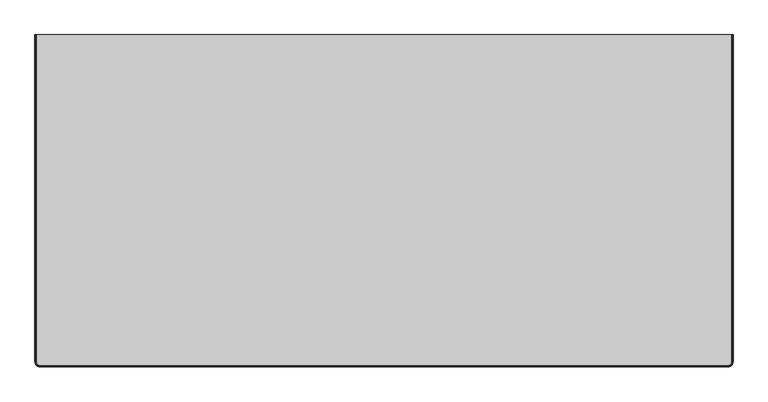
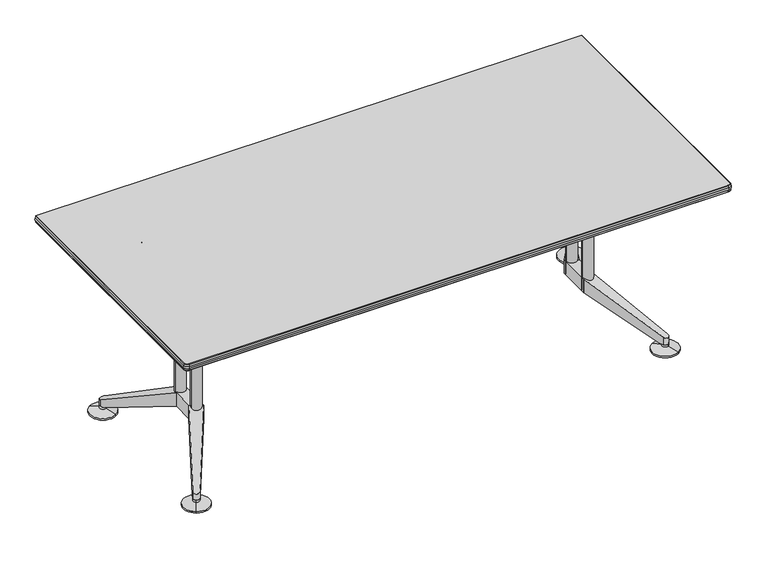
"""IFC4 building model written with IfcOpenShell, lengths in millimetres: furniture geometry, Furniture_Wilkhahn_620-24_Logon Table-Rectangle : Logon 620/23_2100L x 2000W x 730H."""

from ifc_helpers import new_model, si_unit, point, frame, frame_2d, origin, place, context, project, spatial, polyline, circle_curve, ellipse_curve, trimmed, segment, composite_curve, outline, extrude, source, transform, mapped, element, save
from ifc_brep_helpers import plane_surface, cylinder_surface, revolved_surface, advanced_brep


def furniture_8e140310(model_context):
    return source(origin(), model_context, "Body", "SolidModel", [
        advanced_brep(
        [(1048.5013551, -1184.0488456, 720.5693751), (1035.0, -1197.5502006, 720.5693751), (1035.0, -1197.5502006, 713.4306041), (1048.5013551, -1184.0488456, 713.4306041), (1048.5013551, -199.0488456, 713.4306041), (1048.5013551, -199.0488456, 720.5693751), (-1048.5013551, -199.0488456, 720.5693751), (-1048.5013551, -199.0488456, 713.4306041), (-1048.5013551, -1184.0488456, 713.4306041), (-1048.5013551, -1184.0488456, 720.5693751), (-1035.0, -1197.5502006, 713.4306041), (-1035.0, -1197.5502006, 720.5693751), (1035.0, -1195.2688717, 703.9999792), (1046.2200262, -1184.0488456, 703.9999792), (1047.703249, -1184.0488456, 705.2762608), (1035.0, -1196.7520946, 705.2762608), (1047.703249, -1184.0488456, 728.7237185), (1035.0, -1196.7520946, 728.7237185), (1046.2200262, -1184.0488456, 730.0), (1035.0, -1195.2688717, 730.0), (1046.2200262, -199.0488456, 703.9999792), (1047.703249, -199.0488456, 705.2762608), (1047.703249, -199.0488456, 728.7237185), (1046.2200262, -199.0488456, 730.0), (-1047.703249, -199.0488456, 705.2762608), (-1046.2200262, -199.0488456, 703.9999792), (-1046.2200262, -1184.0488456, 703.9999792), (-1047.703249, -1184.0488456, 705.2762608), (-1047.703249, -199.0488456, 728.7237185), (-1047.703249, -1184.0488456, 728.7237185), (-1046.2200262, -199.0488456, 730.0), (-1046.2200262, -1184.0488456, 730.0), (-1035.0, -1195.2688717, 703.9999792), (-1035.0, -1196.7520946, 705.2762608), (-1035.0, -1196.7520946, 728.7237185), (-1035.0, -1195.2688717, 730.0)],
        [
            (0, 1, circle_curve(frame((1035.0, -1184.0488456, 720.5693751), z_axis=(0.0, 0.0, -1.0), x_axis=(0.0, -1.0000000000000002, 0.0)), 13.5013551)),
            (1, 2, circle_curve(frame((1035.0, -1194.0488456, 716.9999896), z_axis=(1.0000000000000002, 0.0, 0.0), x_axis=(0.0, 1.0000000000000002, 0.0)), 5.0)),
            (2, 3, circle_curve(frame((1035.0, -1184.0488456, 713.4306041), z_axis=(0.0, 0.0, 1.0), x_axis=(0.0, -1.0000000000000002, 0.0)), 13.5013551)),
            (3, 0, circle_curve(frame((1045.0, -1184.0488456, 716.9999896), z_axis=(0.0, -1.0000000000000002, 0.0), x_axis=(-1.0000000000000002, 0.0, 0.0)), 5.0)),
            (4, 5, circle_curve(frame((1045.0, -199.0488456, 716.9999896), z_axis=(0.0, -1.0, 0.0), x_axis=(-1.0000000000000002, 0.0, 0.0)), 5.0)),
            (5, 0),
            (3, 4),
            (6, 7, circle_curve(frame((-1045.0, -199.0488456, 716.9999896), z_axis=(0.0, -1.0, 0.0), x_axis=(1.0000000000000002, 0.0, 0.0)), 5.0)),
            (7, 8),
            (8, 9, circle_curve(frame((-1045.0, -1184.0488456, 716.9999896), z_axis=(0.0, 1.0, 0.0), x_axis=(1.0000000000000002, 0.0, 0.0)), 5.0)),
            (9, 6),
            (8, 10, circle_curve(frame((-1035.0, -1184.0488456, 713.4306041), z_axis=(0.0, 0.0, 1.0), x_axis=(-1.0000000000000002, 0.0, 0.0)), 13.5013551)),
            (10, 11, circle_curve(frame((-1035.0, -1194.0488456, 716.9999896), z_axis=(-1.0000000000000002, 0.0, 0.0), x_axis=(0.0, 1.0000000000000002, 0.0)), 5.0)),
            (11, 9, circle_curve(frame((-1035.0, -1184.0488456, 720.5693751), z_axis=(0.0, 0.0, -1.0), x_axis=(-1.0000000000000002, 0.0, 0.0)), 13.5013551)),
            (1, 11),
            (10, 2),
            (12, 13, circle_curve(frame((1035.0, -1184.0488456, 703.9999792), z_axis=(0.0, 0.0, 1.0), x_axis=(0.0, -1.0000000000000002, 0.0)), 11.2200262)),
            (13, 14, circle_curve(frame((1046.2200262, -1184.0488456, 705.4999792), z_axis=(0.0, -1.0000000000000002, 0.0), x_axis=(-1.0000000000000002, 0.0, 0.0)), 1.5)),
            (14, 15, circle_curve(frame((1035.0, -1184.0488456, 705.2762608), z_axis=(0.0, 0.0, -1.0), x_axis=(0.0, -1.0000000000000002, 0.0)), 12.703249)),
            (15, 12, circle_curve(frame((1035.0, -1195.2688717, 705.4999792), z_axis=(1.0000000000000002, 0.0, 0.0), x_axis=(0.0, 1.0000000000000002, 0.0)), 1.5)),
            (2, 15, circle_curve(frame((1035.0, -1119.025371, 716.9999896), z_axis=(1.0000000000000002, 0.0, 0.0), x_axis=(0.0, 1.0000000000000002, 0.0)), 78.6059119)),
            (14, 3, circle_curve(frame((969.9765254, -1184.0488456, 716.9999896), z_axis=(0.0, -1.0000000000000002, 0.0), x_axis=(-1.0000000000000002, 0.0, 0.0)), 78.6059119)),
            (0, 16, circle_curve(frame((969.9765254, -1184.0488456, 716.9999896), z_axis=(0.0, -1.0000000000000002, 0.0), x_axis=(-1.0000000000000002, 0.0, 0.0)), 78.6059119)),
            (16, 17, circle_curve(frame((1035.0, -1184.0488456, 728.7237185), z_axis=(0.0, 0.0, -1.0), x_axis=(0.0, -1.0000000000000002, 0.0)), 12.703249)),
            (17, 1, circle_curve(frame((1035.0, -1119.025371, 716.9999896), z_axis=(1.0000000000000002, 0.0, 0.0), x_axis=(0.0, 1.0000000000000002, 0.0)), 78.6059119)),
            (18, 19, circle_curve(frame((1035.0, -1184.0488456, 730.0), z_axis=(0.0, 0.0, -1.0), x_axis=(0.0, -1.0000000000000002, 0.0)), 11.2200262)),
            (19, 17, circle_curve(frame((1035.0, -1195.2688717, 728.5), z_axis=(1.0000000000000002, 0.0, 0.0), x_axis=(0.0, 1.0000000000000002, 0.0)), 1.5)),
            (16, 18, circle_curve(frame((1046.2200262, -1184.0488456, 728.5), z_axis=(0.0, -1.0000000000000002, 0.0), x_axis=(-1.0000000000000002, 0.0, 0.0)), 1.5)),
            (20, 21, circle_curve(frame((1046.2200262, -199.0488456, 705.4999792), z_axis=(0.0, -1.0, 0.0), x_axis=(-1.0000000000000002, 0.0, 0.0)), 1.5)),
            (21, 14),
            (13, 20),
            (21, 4, circle_curve(frame((969.9765254, -199.0488456, 716.9999896), z_axis=(0.0, -1.0, 0.0), x_axis=(-1.0000000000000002, 0.0, 0.0)), 78.6059119)),
            (5, 22, circle_curve(frame((969.9765254, -199.0488456, 716.9999896), z_axis=(0.0, -1.0, 0.0), x_axis=(-1.0000000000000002, 0.0, 0.0)), 78.6059119)),
            (22, 16),
            (22, 23, circle_curve(frame((1046.2200262, -199.0488456, 728.5), z_axis=(0.0, -1.0, 0.0), x_axis=(-1.0000000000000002, 0.0, 0.0)), 1.5)),
            (23, 18),
            (24, 25, circle_curve(frame((-1046.2200262, -199.0488456, 705.4999792), z_axis=(0.0, -1.0, 0.0), x_axis=(1.0000000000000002, 0.0, 0.0)), 1.5)),
            (25, 26),
            (26, 27, circle_curve(frame((-1046.2200262, -1184.0488456, 705.4999792), z_axis=(0.0, 1.0, 0.0), x_axis=(1.0000000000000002, 0.0, 0.0)), 1.5)),
            (27, 24),
            (7, 24, circle_curve(frame((-969.9765254, -199.0488456, 716.9999896), z_axis=(0.0, -1.0, 0.0), x_axis=(1.0000000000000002, 0.0, 0.0)), 78.6059119)),
            (27, 8, circle_curve(frame((-969.9765254, -1184.0488456, 716.9999896), z_axis=(0.0, 1.0, 0.0), x_axis=(1.0000000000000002, 0.0, 0.0)), 78.6059119)),
            (28, 6, circle_curve(frame((-969.9765254, -199.0488456, 716.9999896), z_axis=(0.0, -1.0, 0.0), x_axis=(1.0000000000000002, 0.0, 0.0)), 78.6059119)),
            (9, 29, circle_curve(frame((-969.9765254, -1184.0488456, 716.9999896), z_axis=(0.0, 1.0, 0.0), x_axis=(1.0000000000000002, 0.0, 0.0)), 78.6059119)),
            (29, 28),
            (30, 28, circle_curve(frame((-1046.2200262, -199.0488456, 728.5), z_axis=(0.0, -1.0, 0.0), x_axis=(1.0000000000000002, 0.0, 0.0)), 1.5)),
            (29, 31, circle_curve(frame((-1046.2200262, -1184.0488456, 728.5), z_axis=(0.0, 1.0, 0.0), x_axis=(1.0000000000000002, 0.0, 0.0)), 1.5)),
            (31, 30),
            (26, 32, circle_curve(frame((-1035.0, -1184.0488456, 703.9999792), z_axis=(0.0, 0.0, 1.0), x_axis=(-1.0000000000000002, 0.0, 0.0)), 11.2200262)),
            (32, 33, circle_curve(frame((-1035.0, -1195.2688717, 705.4999792), z_axis=(-1.0000000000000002, 0.0, 0.0), x_axis=(0.0, 1.0000000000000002, 0.0)), 1.5)),
            (33, 27, circle_curve(frame((-1035.0, -1184.0488456, 705.2762608), z_axis=(0.0, 0.0, -1.0), x_axis=(-1.0000000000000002, 0.0, 0.0)), 12.703249)),
            (33, 10, circle_curve(frame((-1035.0, -1119.025371, 716.9999896), z_axis=(-1.0000000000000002, 0.0, 0.0), x_axis=(0.0, 1.0000000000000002, 0.0)), 78.6059119)),
            (11, 34, circle_curve(frame((-1035.0, -1119.025371, 716.9999896), z_axis=(-1.0000000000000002, 0.0, 0.0), x_axis=(0.0, 1.0000000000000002, 0.0)), 78.6059119)),
            (34, 29, circle_curve(frame((-1035.0, -1184.0488456, 728.7237185), z_axis=(0.0, 0.0, -1.0), x_axis=(-1.0000000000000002, 0.0, 0.0)), 12.703249)),
            (35, 31, circle_curve(frame((-1035.0, -1184.0488456, 730.0), z_axis=(0.0, 0.0, -1.0), x_axis=(-1.0000000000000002, 0.0, 0.0)), 11.2200262)),
            (34, 35, circle_curve(frame((-1035.0, -1195.2688717, 728.5), z_axis=(-1.0000000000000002, 0.0, 0.0), x_axis=(0.0, 1.0000000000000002, 0.0)), 1.5)),
            (32, 12),
            (15, 33),
            (17, 34),
            (19, 35),
            (30, 23),
            (20, 25),
        ],
        [
            revolved_surface(trimmed(ellipse_curve(frame((1035.0, -1194.0488456, 716.9999896), z_axis=(-1.0000000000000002, 0.0, 0.0), x_axis=(0.0, 1.0000000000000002, 0.0)), 5.0, 5.0), [point((1035.0, -1197.5502006, 713.4306041))], [point((1035.0, -1197.5502006, 720.5693751))], True, "CARTESIAN"), (1035.0, -1184.0488456, 730.0), (0.0, 0.0, 1.0)),
            cylinder_surface(frame((1045.0, -1184.0488456, 716.9999896), z_axis=(0.0, -1.0000000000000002, 0.0), x_axis=(-1.0000000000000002, 0.0, 0.0)), 5.0),
            cylinder_surface(frame((-1045.0, -199.0488456, 716.9999896), z_axis=(0.0, 1.0000000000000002, 0.0), x_axis=(1.0000000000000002, 0.0, 0.0)), 5.0),
            revolved_surface(trimmed(ellipse_curve(frame((-1045.0, -1184.0488456, 716.9999896), z_axis=(0.0, 1.0000000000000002, 0.0), x_axis=(1.0000000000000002, 0.0, 0.0)), 5.0, 5.0), [point((-1048.5013551, -1184.0488456, 713.4306041))], [point((-1048.5013551, -1184.0488456, 720.5693751))], True, "CARTESIAN"), (-1035.0, -1184.0488456, 730.0), (0.0, 0.0, 1.0)),
            cylinder_surface(frame((-1035.0, -1194.0488456, 716.9999896), z_axis=(-1.0000000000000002, 0.0, 0.0), x_axis=(0.0, 1.0000000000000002, 0.0)), 5.0),
            revolved_surface(trimmed(ellipse_curve(frame((1035.0, -1195.2688717, 705.4999792), z_axis=(-1.0000000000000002, 0.0, 0.0), x_axis=(0.0, 1.0000000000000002, 0.0)), 1.5, 1.5), [point((1035.0, -1195.2688717, 703.9999792))], [point((1035.0, -1196.7520946, 705.2762608))], True, "CARTESIAN"), (1035.0, -1184.0488456, 730.0), (0.0, 0.0, 1.0)),
            revolved_surface(trimmed(ellipse_curve(frame((1035.0, -1119.025371, 716.9999896), z_axis=(-1.0000000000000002, 0.0, 0.0), x_axis=(0.0, 1.0000000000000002, 0.0)), 78.6059119, 78.6059119), [point((1035.0, -1196.7520946, 705.2762608))], [point((1035.0, -1197.5502006, 713.4306041))], True, "CARTESIAN"), (1035.0, -1184.0488456, 730.0), (0.0, 0.0, 1.0)),
            revolved_surface(trimmed(ellipse_curve(frame((1035.0, -1119.025371, 716.9999896), z_axis=(-1.0000000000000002, 0.0, 0.0), x_axis=(0.0, 1.0000000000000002, 0.0)), 78.6059119, 78.6059119), [point((1035.0, -1197.5502006, 720.5693751))], [point((1035.0, -1196.7520946, 728.7237185))], True, "CARTESIAN"), (1035.0, -1184.0488456, 730.0), (0.0, 0.0, 1.0)),
            revolved_surface(trimmed(ellipse_curve(frame((1035.0, -1195.2688717, 728.5), z_axis=(-1.0000000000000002, 0.0, 0.0), x_axis=(0.0, 1.0000000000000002, 0.0)), 1.5, 1.5), [point((1035.0, -1196.7520946, 728.7237185))], [point((1035.0, -1195.2688717, 730.0))], True, "CARTESIAN"), (1035.0, -1184.0488456, 730.0), (0.0, 0.0, 1.0)),
            cylinder_surface(frame((1046.2200262, -1184.0488456, 705.4999792), z_axis=(0.0, -1.0000000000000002, 0.0), x_axis=(-1.0000000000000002, 0.0, 0.0)), 1.5),
            cylinder_surface(frame((969.9765254, -1184.0488456, 716.9999896), z_axis=(0.0, -1.0000000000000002, 0.0), x_axis=(-1.0000000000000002, 0.0, 0.0)), 78.6059119),
            cylinder_surface(frame((1046.2200262, -1184.0488456, 728.5), z_axis=(0.0, -1.0000000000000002, 0.0), x_axis=(-1.0000000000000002, 0.0, 0.0)), 1.5),
            cylinder_surface(frame((-1046.2200262, -199.0488456, 705.4999792), z_axis=(0.0, 1.0000000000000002, 0.0), x_axis=(1.0000000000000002, 0.0, 0.0)), 1.5),
            cylinder_surface(frame((-969.9765254, -199.0488456, 716.9999896), z_axis=(0.0, 1.0000000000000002, 0.0), x_axis=(1.0000000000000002, 0.0, 0.0)), 78.6059119),
            cylinder_surface(frame((-1046.2200262, -199.0488456, 728.5), z_axis=(0.0, 1.0000000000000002, 0.0), x_axis=(1.0000000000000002, 0.0, 0.0)), 1.5),
            revolved_surface(trimmed(ellipse_curve(frame((-1046.2200262, -1184.0488456, 705.4999792), z_axis=(0.0, 1.0000000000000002, 0.0), x_axis=(1.0000000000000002, 0.0, 0.0)), 1.5, 1.5), [point((-1046.2200262, -1184.0488456, 703.9999792))], [point((-1047.703249, -1184.0488456, 705.2762608))], True, "CARTESIAN"), (-1035.0, -1184.0488456, 730.0), (0.0, 0.0, 1.0)),
            revolved_surface(trimmed(ellipse_curve(frame((-969.9765254, -1184.0488456, 716.9999896), z_axis=(0.0, 1.0000000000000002, 0.0), x_axis=(1.0000000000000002, 0.0, 0.0)), 78.6059119, 78.6059119), [point((-1047.703249, -1184.0488456, 705.2762608))], [point((-1048.5013551, -1184.0488456, 713.4306041))], True, "CARTESIAN"), (-1035.0, -1184.0488456, 730.0), (0.0, 0.0, 1.0)),
            revolved_surface(trimmed(ellipse_curve(frame((-969.9765254, -1184.0488456, 716.9999896), z_axis=(0.0, 1.0000000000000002, 0.0), x_axis=(1.0000000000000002, 0.0, 0.0)), 78.6059119, 78.6059119), [point((-1048.5013551, -1184.0488456, 720.5693751))], [point((-1047.703249, -1184.0488456, 728.7237185))], True, "CARTESIAN"), (-1035.0, -1184.0488456, 730.0), (0.0, 0.0, 1.0)),
            revolved_surface(trimmed(ellipse_curve(frame((-1046.2200262, -1184.0488456, 728.5), z_axis=(0.0, 1.0000000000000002, 0.0), x_axis=(1.0000000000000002, 0.0, 0.0)), 1.5, 1.5), [point((-1047.703249, -1184.0488456, 728.7237185))], [point((-1046.2200262, -1184.0488456, 730.0))], True, "CARTESIAN"), (-1035.0, -1184.0488456, 730.0), (0.0, 0.0, 1.0)),
            cylinder_surface(frame((-1035.0, -1195.2688717, 705.4999792), z_axis=(-1.0000000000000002, 0.0, 0.0), x_axis=(0.0, 1.0000000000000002, 0.0)), 1.5),
            cylinder_surface(frame((-1035.0, -1119.025371, 716.9999896), z_axis=(-1.0000000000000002, 0.0, 0.0), x_axis=(0.0, 1.0000000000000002, 0.0)), 78.6059119),
            cylinder_surface(frame((-1035.0, -1195.2688717, 728.5), z_axis=(-1.0000000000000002, 0.0, 0.0), x_axis=(0.0, 1.0000000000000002, 0.0)), 1.5),
            plane_surface(frame((-1050.0, -199.0488456, 730.0), z_axis=(0.0, 1.0, 0.0), x_axis=(0.0, 0.0, 1.0))),
            plane_surface(frame((-1045.0, -199.0488456, 703.9999792), z_axis=(0.0, 0.0, -1.0), x_axis=(0.0, -1.0, 0.0))),
            plane_surface(frame((-1046.2200262, -199.0488456, 730.0), z_axis=(0.0, 0.0, 1.0), x_axis=(0.0, -1.0, 0.0))),
        ],
        [
            (0, [[1, 2, 3, 4]]),
            (1, [[5, 6, -4, 7]]),
            (2, [[8, 9, 10, 11]]),
            (3, [[-10, 12, 13, 14]]),
            (4, [[-2, 15, -13, 16]]),
            (5, [[17, 18, 19, 20]]),
            (6, [[-3, 21, -19, 22]]),
            (7, [[-1, 23, 24, 25]]),
            (8, [[26, 27, -24, 28]]),
            (9, [[29, 30, -18, 31]]),
            (10, [[32, -7, -22, -30]]),
            (10, [[33, 34, -23, -6]]),
            (11, [[35, 36, -28, -34]]),
            (12, [[37, 38, 39, 40]]),
            (13, [[41, -40, 42, -9]]),
            (13, [[43, -11, 44, 45]]),
            (14, [[46, -45, 47, 48]]),
            (15, [[49, 50, 51, -39]]),
            (16, [[-12, -42, -51, 52]]),
            (17, [[-14, 53, 54, -44]]),
            (18, [[55, -47, -54, 56]]),
            (19, [[57, -20, 58, -50]]),
            (20, [[-16, -52, -58, -21]]),
            (20, [[-15, -25, 59, -53]]),
            (21, [[60, -56, -59, -27]]),
            (22, [[-37, -41, -8, -43, -46, 61, -35, -33, -5, -32, -29, 62]]),
            (23, [[-62, -31, -17, -57, -49, -38]]),
            (24, [[-61, -48, -55, -60, -26, -36]]),
        ],
    ),
        extrude(outline(polyline([(771.6506351, -739.5488456), (728.3493649, -764.5488456), (728.3493649, -633.5488456), (771.6506351, -658.5488456), (771.6506351, -739.5488456)])), frame((0.0, 0.0, 140.0), z_axis=(0.0, 0.0, 1.0), x_axis=(1.0, 0.0, 0.0)), (0.0, 0.0, 1.0), 55.0),
        advanced_brep(
        [(728.3493649, -764.5488456, 195.0), (888.2296242, -1016.398815, 56.1717347), (905.0, -1020.5167207, 50.6048844), (909.8189769, -1003.9341964, 56.1717347), (771.6506351, -739.5488456, 195.0), (903.7925387, -992.402597, 27.0), (909.8189769, -1003.9341964, 27.0), (905.0, -1020.5167207, 27.0), (888.2296242, -1016.398815, 27.0), (881.2561852, -1005.4139667, 27.0), (771.6506351, -739.5488456, 140.0), (728.3493649, -764.5488456, 140.0)],
        [
            (0, 1),
            (1, 2, ellipse_curve(frame((898.762181, -1009.7125013, 56.4159205), z_axis=(0.21111665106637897, -0.36566476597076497, 0.9064871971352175), x_axis=(0.4532435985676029, -0.7850409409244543, -0.42223330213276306)), 13.7626191, 12.475638)),
            (2, 3, ellipse_curve(frame((898.762181, -1009.7125013, 56.4159205), z_axis=(0.21111665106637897, -0.36566476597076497, 0.9064871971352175), x_axis=(0.4532435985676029, -0.7850409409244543, -0.42223330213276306)), 13.7626191, 12.475638)),
            (3, 4),
            (4, 0),
            (5, 6),
            (6, 7, circle_curve(frame((898.762181, -1009.7125013, 27.0), z_axis=(0.0, 0.0, -1.0), x_axis=(0.8660254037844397, 0.4999999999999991, 0.0)), 12.475638)),
            (7, 8, circle_curve(frame((898.762181, -1009.7125013, 27.0), z_axis=(0.0, 0.0, -1.0), x_axis=(0.8660254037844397, 0.4999999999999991, 0.0)), 12.475638)),
            (8, 9),
            (9, 5),
            (10, 5),
            (9, 11),
            (11, 10),
            (4, 10),
            (11, 0),
            (3, 6),
            (8, 1),
        ],
        [
            plane_surface(frame((926.6506351, -1008.0167207, 50.6048844), z_axis=(0.21111665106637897, -0.36566476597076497, 0.9064871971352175), x_axis=(-0.8660254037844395, -0.49999999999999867, 0.0))),
            plane_surface(frame((914.1749971, -986.4082819, 27.0), z_axis=(0.0, 0.0, -1.0), x_axis=(-0.8660254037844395, -0.49999999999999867, 0.0))),
            plane_surface(frame((771.6506351, -739.5488456, 140.0), z_axis=(-0.18426133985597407, 0.3191500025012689, -0.9296187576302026), x_axis=(-0.866025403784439, -0.4999999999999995, 0.0))),
            plane_surface(frame((771.6506351, -739.5488456, 195.0), z_axis=(-0.4999999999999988, 0.8660254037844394, 0.0), x_axis=(-0.8660254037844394, -0.4999999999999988, 0.0))),
            plane_surface(frame((909.8189769, -1003.9341964, 195.0), z_axis=(0.8862709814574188, 0.4631670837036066, 0.0), x_axis=(0.0, 0.0, -1.0))),
            plane_surface(frame((728.3493649, -764.5488456, 195.0), z_axis=(-0.8442499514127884, -0.5359496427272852, 0.0), x_axis=(0.0, 0.0, -1.0))),
            cylinder_surface(frame((898.762181, -1009.7125013, 0.0), z_axis=(0.0, 0.0, -1.0), x_axis=(0.8660254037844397, 0.4999999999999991, 0.0)), 12.475638),
        ],
        [
            (0, [[1, 2, 3, 4, 5]]),
            (1, [[6, 7, 8, 9, 10]]),
            (2, [[11, -10, 12, 13]]),
            (3, [[14, -13, 15, -5]]),
            (4, [[-6, -11, -14, -4, 16]]),
            (5, [[-1, -15, -12, -9, 17]]),
            (6, [[-3, -2, -17, -8, -7, -16]]),
        ],
    ),
        advanced_brep(
        [(898.762181, -388.3851898, 0.0), (873.762181, -431.68646, 0.0), (923.762181, -345.0839196, 0.0), (873.762181, -431.68646, 6.0), (923.762181, -345.0839196, 6.0), (892.524362, -399.1894093, 17.0), (905.0, -377.5809704, 17.0), (892.524362, -399.1894093, 27.0), (905.0, -377.5809704, 27.0), (898.762181, -388.3851898, 27.0)],
        [
            (0, 1),
            (1, 2, circle_curve(frame((898.762181, -388.3851898, 0.0), z_axis=(0.0, 0.0, -1.0), x_axis=(0.49999999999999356, 0.8660254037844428, 0.0)), 50.0)),
            (2, 0),
            (2, 1, circle_curve(frame((898.762181, -388.3851898, 0.0), z_axis=(0.0, 0.0, -1.0), x_axis=(0.49999999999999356, 0.8660254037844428, 0.0)), 50.0)),
            (1, 3),
            (3, 4, circle_curve(frame((898.762181, -388.3851898, 6.0), z_axis=(0.0, 0.0, -1.0), x_axis=(0.49999999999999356, 0.8660254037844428, 0.0)), 50.0)),
            (4, 2),
            (4, 3, circle_curve(frame((898.762181, -388.3851898, 6.0), z_axis=(0.0, 0.0, -1.0), x_axis=(0.49999999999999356, 0.8660254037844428, 0.0)), 50.0)),
            (3, 5),
            (5, 6, circle_curve(frame((898.762181, -388.3851898, 17.0), z_axis=(0.0, 0.0, -1.0), x_axis=(0.49999999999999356, 0.8660254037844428, 0.0)), 12.475638)),
            (6, 4),
            (6, 5, circle_curve(frame((898.762181, -388.3851898, 17.0), z_axis=(0.0, 0.0, -1.0), x_axis=(0.49999999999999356, 0.8660254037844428, 0.0)), 12.475638)),
            (5, 7),
            (7, 8, circle_curve(frame((898.762181, -388.3851898, 27.0), z_axis=(0.0, 0.0, -1.0), x_axis=(0.49999999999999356, 0.8660254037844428, 0.0)), 12.475638)),
            (8, 6),
            (8, 7, circle_curve(frame((898.762181, -388.3851898, 27.0), z_axis=(0.0, 0.0, -1.0), x_axis=(0.49999999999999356, 0.8660254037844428, 0.0)), 12.475638)),
            (7, 9),
            (9, 8),
        ],
        [
            plane_surface(frame((898.762181, -388.3851898, 0.0), z_axis=(0.0, 0.0, -1.0), x_axis=(0.49999999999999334, 0.8660254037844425, 0.0))),
            cylinder_surface(frame((898.762181, -388.3851898, 27.0), z_axis=(0.0, 0.0, -1.0), x_axis=(0.49999999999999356, 0.8660254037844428, 0.0)), 50.0),
            revolved_surface(polyline([(905.0, -377.5809704, 17.0), (923.762181, -345.0839196, 6.0)]), (898.762181, -388.3851898, 27.0), (0.0, 0.0, -1.0)),
            cylinder_surface(frame((898.762181, -388.3851898, 27.0), z_axis=(0.0, 0.0, -1.0), x_axis=(0.49999999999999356, 0.8660254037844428, 0.0)), 12.475638),
            plane_surface(frame((898.762181, -388.3851898, 27.0), z_axis=(0.0, 0.0, 1.0), x_axis=(0.49999999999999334, 0.8660254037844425, 0.0))),
        ],
        [
            (0, [[1, 2, 3]]),
            (0, [[-3, 4, -1]]),
            (1, [[5, 6, 7, -2]]),
            (1, [[-7, 8, -5, -4]]),
            (2, [[9, 10, 11, -6]]),
            (2, [[-11, 12, -9, -8]]),
            (3, [[13, 14, 15, -10]]),
            (3, [[-15, 16, -13, -12]]),
            (4, [[17, 18, -14]]),
            (4, [[-18, -17, -16]]),
        ],
    ),
        advanced_brep(
        [(873.762181, -966.4112311, 0.0), (898.762181, -1009.7125013, 0.0), (923.762181, -1053.0137715, 0.0), (873.762181, -966.4112311, 6.0), (923.762181, -1053.0137715, 6.0), (892.524362, -998.9082819, 17.0), (905.0, -1020.5167207, 17.0), (892.524362, -998.9082819, 27.0), (905.0, -1020.5167207, 27.0), (898.762181, -1009.7125013, 27.0)],
        [
            (0, 1),
            (1, 2),
            (2, 0, circle_curve(frame((898.762181, -1009.7125013, 0.0), z_axis=(0.0, 0.0, -1.0), x_axis=(0.4999999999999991, -0.8660254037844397, 0.0)), 50.0)),
            (0, 2, circle_curve(frame((898.762181, -1009.7125013, 0.0), z_axis=(0.0, 0.0, -1.0), x_axis=(0.4999999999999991, -0.8660254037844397, 0.0)), 50.0)),
            (3, 0),
            (2, 4),
            (4, 3, circle_curve(frame((898.762181, -1009.7125013, 6.0), z_axis=(0.0, 0.0, -1.0), x_axis=(0.4999999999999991, -0.8660254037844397, 0.0)), 50.0)),
            (3, 4, circle_curve(frame((898.762181, -1009.7125013, 6.0), z_axis=(0.0, 0.0, -1.0), x_axis=(0.4999999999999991, -0.8660254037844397, 0.0)), 50.0)),
            (5, 3),
            (4, 6),
            (6, 5, circle_curve(frame((898.762181, -1009.7125013, 17.0), z_axis=(0.0, 0.0, -1.0), x_axis=(0.4999999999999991, -0.8660254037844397, 0.0)), 12.475638)),
            (5, 6, circle_curve(frame((898.762181, -1009.7125013, 17.0), z_axis=(0.0, 0.0, -1.0), x_axis=(0.4999999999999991, -0.8660254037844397, 0.0)), 12.475638)),
            (7, 5),
            (6, 8),
            (8, 7, circle_curve(frame((898.762181, -1009.7125013, 27.0), z_axis=(0.0, 0.0, -1.0), x_axis=(0.4999999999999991, -0.8660254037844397, 0.0)), 12.475638)),
            (7, 8, circle_curve(frame((898.762181, -1009.7125013, 27.0), z_axis=(0.0, 0.0, -1.0), x_axis=(0.4999999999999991, -0.8660254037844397, 0.0)), 12.475638)),
            (9, 7),
            (8, 9),
        ],
        [
            plane_surface(frame((898.762181, -1009.7125013, 0.0), z_axis=(0.0, 0.0, -1.0), x_axis=(0.4999999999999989, -0.8660254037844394, 0.0))),
            cylinder_surface(frame((898.762181, -1009.7125013, 27.0), z_axis=(0.0, 0.0, 1.0), x_axis=(0.4999999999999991, -0.8660254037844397, 0.0)), 50.0),
            revolved_surface(polyline([(923.762181, -1053.0137715, 6.0), (905.0, -1020.5167207, 17.0)]), (898.762181, -1009.7125013, 27.0), (0.0, 0.0, 1.0)),
            cylinder_surface(frame((898.762181, -1009.7125013, 27.0), z_axis=(0.0, 0.0, 1.0), x_axis=(0.4999999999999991, -0.8660254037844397, 0.0)), 12.475638),
            plane_surface(frame((898.762181, -1009.7125013, 27.0), z_axis=(0.0, 0.0, 1.0), x_axis=(0.4999999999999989, -0.8660254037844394, 0.0))),
        ],
        [
            (0, [[1, 2, 3]]),
            (0, [[-2, -1, 4]]),
            (1, [[5, -3, 6, 7]]),
            (1, [[-6, -4, -5, 8]]),
            (2, [[9, -7, 10, 11]]),
            (2, [[-10, -8, -9, 12]]),
            (3, [[13, -11, 14, 15]]),
            (3, [[-14, -12, -13, 16]]),
            (4, [[17, -15, 18]]),
            (4, [[-18, -16, -17]]),
        ],
    ),
        extrude(outline(composite_curve([segment(polyline([(775.0, -646.0488456), (775.0, -752.0488456), (801.7160071, -915.1086133)]), True, "CONTINUOUS"), segment(trimmed(circle_curve(frame_2d((789.8739001, -917.0488456)), 12.0), [point((801.7160071, -915.1086133))], [point((789.8739001, -929.0488456))], False, "CARTESIAN"), True, "CONTINUOUS"), segment(polyline([(789.8739001, -929.0488456), (710.1260999, -929.0488456)]), True, "CONTINUOUS"), segment(trimmed(circle_curve(frame_2d((710.1260999, -917.0488456)), 12.0), [point((710.1260999, -929.0488456))], [point((698.2839929, -915.1086133))], False, "CARTESIAN"), True, "CONTINUOUS"), segment(polyline([(698.2839929, -915.1086133), (725.0, -752.0488456), (725.0, -646.0488456), (698.2839929, -482.9890778)]), True, "CONTINUOUS"), segment(trimmed(circle_curve(frame_2d((710.1260999, -481.0488456)), 12.0), [point((698.2839929, -482.9890778))], [point((710.1260999, -469.0488456))], False, "CARTESIAN"), True, "CONTINUOUS"), segment(polyline([(710.1260999, -469.0488456), (789.8739001, -469.0488456)]), True, "CONTINUOUS"), segment(trimmed(circle_curve(frame_2d((789.8739001, -481.0488456)), 12.0), [point((789.8739001, -469.0488456))], [point((801.7160071, -482.9890778))], False, "CARTESIAN"), True, "CONTINUOUS"), segment(polyline([(801.7160071, -482.9890778), (775.0, -646.0488456)]), True, "CONTINUOUS")], self_intersect=False)), frame((0.0, 0.0, 675.0), z_axis=(0.0, 0.0, 1.0), x_axis=(1.0, 0.0, 0.0)), (0.0, 0.0, 1.0), 29.0),
        advanced_brep(
        [(909.8189769, -394.1634947, 56.1717347), (771.6506351, -658.5488456, 195.0), (771.6506351, -658.5488456, 140.0), (903.7925387, -405.6950942, 27.0), (909.8189769, -394.1634947, 27.0), (888.2296242, -381.6988761, 27.0), (881.2561852, -392.6837244, 27.0), (728.3493649, -633.5488456, 140.0), (728.3493649, -633.5488456, 195.0), (888.2296242, -381.6988761, 56.1717347), (905.0, -377.5809704, 50.6048844), (905.0, -377.5809704, 27.0)],
        [
            (0, 1),
            (1, 2),
            (2, 3),
            (3, 4),
            (4, 0),
            (5, 6),
            (6, 7),
            (7, 8),
            (8, 9),
            (9, 5),
            (0, 10, ellipse_curve(frame((898.762181, -388.3851898, 56.4159205), z_axis=(0.21111665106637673, 0.36566476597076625, 0.9064871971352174), x_axis=(0.453243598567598, 0.785040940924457, -0.4222333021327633)), 13.7626191, 12.475638)),
            (10, 9, ellipse_curve(frame((898.762181, -388.3851898, 56.4159205), z_axis=(0.21111665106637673, 0.36566476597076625, 0.9064871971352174), x_axis=(0.453243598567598, 0.785040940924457, -0.4222333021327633)), 13.7626191, 12.475638)),
            (8, 1),
            (5, 11, circle_curve(frame((898.762181, -388.3851898, 27.0), z_axis=(0.0, 0.0, -1.0), x_axis=(0.8660254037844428, -0.49999999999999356, 0.0)), 12.475638)),
            (11, 4, circle_curve(frame((898.762181, -388.3851898, 27.0), z_axis=(0.0, 0.0, -1.0), x_axis=(0.8660254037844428, -0.49999999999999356, 0.0)), 12.475638)),
            (3, 6),
            (2, 7),
        ],
        [
            plane_surface(frame((771.6506351, -658.5488456, 195.0), z_axis=(0.8862709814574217, -0.46316708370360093, 0.0), x_axis=(0.0, 0.0, -1.0))),
            plane_surface(frame((888.2296242, -381.6988761, 195.0), z_axis=(-0.844249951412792, 0.5359496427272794, 0.0), x_axis=(0.0, 0.0, -1.0))),
            plane_surface(frame((771.6506351, -658.5488456, 195.0), z_axis=(0.21111665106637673, 0.36566476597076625, 0.9064871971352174), x_axis=(-0.8660254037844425, 0.49999999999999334, 0.0))),
            plane_surface(frame((926.6506351, -390.0809704, 27.0), z_axis=(0.0, 0.0, -1.0), x_axis=(-0.8660254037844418, 0.4999999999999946, 0.0))),
            plane_surface(frame((914.1749971, -411.6894093, 27.0), z_axis=(-0.1842613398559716, -0.3191500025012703, -0.9296187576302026), x_axis=(-0.8660254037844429, 0.49999999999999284, 0.0))),
            cylinder_surface(frame((898.762181, -388.3851898, 0.0), z_axis=(0.0, 0.0, -1.0), x_axis=(0.8660254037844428, -0.49999999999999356, 0.0)), 12.475638),
            plane_surface(frame((771.6506351, -658.5488456, 140.0), z_axis=(-0.4999999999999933, -0.8660254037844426, 0.0), x_axis=(-0.8660254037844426, 0.4999999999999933, 0.0))),
        ],
        [
            (0, [[1, 2, 3, 4, 5]]),
            (1, [[6, 7, 8, 9, 10]]),
            (2, [[-1, 11, 12, -9, 13]]),
            (3, [[-6, 14, 15, -4, 16]]),
            (4, [[-7, -16, -3, 17]]),
            (5, [[-12, -11, -5, -15, -14, -10]]),
            (6, [[-8, -17, -2, -13]]),
        ],
    ),
        extrude(outline(composite_curve([segment(trimmed(circle_curve(frame_2d((750.0, -646.0488456)), 20.0), [point((730.0, -646.0488456))], [point((770.0, -646.0488456))], False, "CARTESIAN"), True, "CONTINUOUS"), segment(trimmed(circle_curve(frame_2d((750.0, -646.0488456)), 20.0), [point((770.0, -646.0488456))], [point((730.0, -646.0488456))], False, "CARTESIAN"), True, "CONTINUOUS")], self_intersect=False)), frame((0.0, 0.0, 140.0), z_axis=(0.0, 0.0, 1.0), x_axis=(1.0, 0.0, 0.0)), (0.0, 0.0, 1.0), 535.0),
        extrude(outline(composite_curve([segment(trimmed(circle_curve(frame_2d((750.0, -752.0488456)), 20.0), [point((730.0, -752.0488456))], [point((770.0, -752.0488456))], False, "CARTESIAN"), True, "CONTINUOUS"), segment(trimmed(circle_curve(frame_2d((750.0, -752.0488456)), 20.0), [point((770.0, -752.0488456))], [point((730.0, -752.0488456))], False, "CARTESIAN"), True, "CONTINUOUS")], self_intersect=False)), frame((0.0, 0.0, 140.0), z_axis=(0.0, 0.0, 1.0), x_axis=(1.0, 0.0, 0.0)), (0.0, 0.0, 1.0), 535.0),
        extrude(outline(polyline([(-771.6506351, -739.5488456), (-771.6506351, -658.5488456), (-728.3493649, -633.5488456), (-728.3493649, -764.5488456), (-771.6506351, -739.5488456)])), frame((0.0, 0.0, 140.0), z_axis=(0.0, 0.0, 1.0), x_axis=(1.0, 0.0, 0.0)), (0.0, 0.0, 1.0), 55.0),
        advanced_brep(
        [(-728.3493649, -764.5488456, 195.0), (-771.6506351, -739.5488456, 195.0), (-909.8189769, -1003.9341964, 56.1717347), (-905.0, -1020.5167207, 50.6048844), (-888.2296242, -1016.398815, 56.1717347), (-903.7925387, -992.402597, 27.0), (-881.2561852, -1005.4139667, 27.0), (-888.2296242, -1016.398815, 27.0), (-905.0, -1020.5167207, 27.0), (-909.8189769, -1003.9341964, 27.0), (-771.6506351, -739.5488456, 140.0), (-728.3493649, -764.5488456, 140.0)],
        [
            (0, 1),
            (1, 2),
            (2, 3, ellipse_curve(frame((-898.762181, -1009.7125013, 56.4159205), z_axis=(-0.21111665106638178, -0.36566476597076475, 0.906487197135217), x_axis=(-0.45324359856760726, -0.7850409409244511, -0.4222333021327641)), 13.7626191, 12.475638)),
            (3, 4, ellipse_curve(frame((-898.762181, -1009.7125013, 56.4159205), z_axis=(-0.21111665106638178, -0.36566476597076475, 0.906487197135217), x_axis=(-0.45324359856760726, -0.7850409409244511, -0.4222333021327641)), 13.7626191, 12.475638)),
            (4, 0),
            (5, 6),
            (6, 7),
            (7, 8, circle_curve(frame((-898.762181, -1009.7125013, 27.0), z_axis=(0.0, 0.0, -1.0), x_axis=(-0.8660254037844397, 0.4999999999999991, 0.0)), 12.475638)),
            (8, 9, circle_curve(frame((-898.762181, -1009.7125013, 27.0), z_axis=(0.0, 0.0, -1.0), x_axis=(-0.8660254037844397, 0.4999999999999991, 0.0)), 12.475638)),
            (9, 5),
            (10, 11),
            (11, 6),
            (5, 10),
            (0, 11),
            (10, 1),
            (9, 2),
            (4, 7),
        ],
        [
            plane_surface(frame((-926.6506351, -1008.0167207, 50.6048844), z_axis=(-0.21111665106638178, -0.36566476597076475, 0.906487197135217), x_axis=(0.8660254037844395, -0.49999999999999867, 0.0))),
            plane_surface(frame((-914.1749971, -986.4082819, 27.0), z_axis=(0.0, 0.0, -1.0), x_axis=(0.8660254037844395, -0.49999999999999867, 0.0))),
            plane_surface(frame((-771.6506351, -739.5488456, 140.0), z_axis=(0.18426133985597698, 0.3191500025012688, -0.9296187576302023), x_axis=(0.866025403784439, -0.4999999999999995, 0.0))),
            plane_surface(frame((-771.6506351, -739.5488456, 195.0), z_axis=(0.4999999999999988, 0.8660254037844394, 0.0), x_axis=(0.8660254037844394, -0.4999999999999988, 0.0))),
            plane_surface(frame((-909.8189769, -1003.9341964, 195.0), z_axis=(-0.8862709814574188, 0.4631670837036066, 0.0), x_axis=(0.0, 0.0, -1.0))),
            plane_surface(frame((-728.3493649, -764.5488456, 195.0), z_axis=(0.8442499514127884, -0.5359496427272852, 0.0), x_axis=(0.0, 0.0, -1.0))),
            cylinder_surface(frame((-898.762181, -1009.7125013, 0.0), z_axis=(0.0, 0.0, -1.0), x_axis=(-0.8660254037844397, 0.4999999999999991, 0.0)), 12.475638),
        ],
        [
            (0, [[1, 2, 3, 4, 5]]),
            (1, [[6, 7, 8, 9, 10]]),
            (2, [[11, 12, -6, 13]]),
            (3, [[-1, 14, -11, 15]]),
            (4, [[16, -2, -15, -13, -10]]),
            (5, [[17, -7, -12, -14, -5]]),
            (6, [[-16, -9, -8, -17, -4, -3]]),
        ],
    ),
        advanced_brep(
        [(-898.762181, -388.3851898, 0.0), (-923.762181, -345.0839196, 0.0), (-873.762181, -431.68646, 0.0), (-923.762181, -345.0839196, 6.0), (-873.762181, -431.68646, 6.0), (-905.0, -377.5809704, 17.0), (-892.524362, -399.1894093, 17.0), (-905.0, -377.5809704, 27.0), (-892.524362, -399.1894093, 27.0), (-898.762181, -388.3851898, 27.0)],
        [
            (0, 1),
            (1, 2, circle_curve(frame((-898.762181, -388.3851898, 0.0), z_axis=(0.0, 0.0, -1.0), x_axis=(-0.49999999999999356, 0.8660254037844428, 0.0)), 50.0)),
            (2, 0),
            (2, 1, circle_curve(frame((-898.762181, -388.3851898, 0.0), z_axis=(0.0, 0.0, -1.0), x_axis=(-0.49999999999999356, 0.8660254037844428, 0.0)), 50.0)),
            (1, 3),
            (3, 4, circle_curve(frame((-898.762181, -388.3851898, 6.0), z_axis=(0.0, 0.0, -1.0), x_axis=(-0.49999999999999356, 0.8660254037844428, 0.0)), 50.0)),
            (4, 2),
            (4, 3, circle_curve(frame((-898.762181, -388.3851898, 6.0), z_axis=(0.0, 0.0, -1.0), x_axis=(-0.49999999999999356, 0.8660254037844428, 0.0)), 50.0)),
            (3, 5),
            (5, 6, circle_curve(frame((-898.762181, -388.3851898, 17.0), z_axis=(0.0, 0.0, -1.0), x_axis=(-0.49999999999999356, 0.8660254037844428, 0.0)), 12.475638)),
            (6, 4),
            (6, 5, circle_curve(frame((-898.762181, -388.3851898, 17.0), z_axis=(0.0, 0.0, -1.0), x_axis=(-0.49999999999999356, 0.8660254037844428, 0.0)), 12.475638)),
            (5, 7),
            (7, 8, circle_curve(frame((-898.762181, -388.3851898, 27.0), z_axis=(0.0, 0.0, -1.0), x_axis=(-0.49999999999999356, 0.8660254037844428, 0.0)), 12.475638)),
            (8, 6),
            (8, 7, circle_curve(frame((-898.762181, -388.3851898, 27.0), z_axis=(0.0, 0.0, -1.0), x_axis=(-0.49999999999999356, 0.8660254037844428, 0.0)), 12.475638)),
            (7, 9),
            (9, 8),
        ],
        [
            plane_surface(frame((-898.762181, -388.3851898, 0.0), z_axis=(0.0, 0.0, -1.0), x_axis=(-0.49999999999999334, 0.8660254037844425, 0.0))),
            cylinder_surface(frame((-898.762181, -388.3851898, 27.0), z_axis=(0.0, 0.0, -1.0), x_axis=(-0.49999999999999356, 0.8660254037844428, 0.0)), 50.0),
            revolved_surface(polyline([(-905.0, -377.5809704, 17.0), (-923.762181, -345.0839196, 6.0)]), (-898.762181, -388.3851898, 27.0), (0.0, 0.0, -1.0)),
            cylinder_surface(frame((-898.762181, -388.3851898, 27.0), z_axis=(0.0, 0.0, -1.0), x_axis=(-0.49999999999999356, 0.8660254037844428, 0.0)), 12.475638),
            plane_surface(frame((-898.762181, -388.3851898, 27.0), z_axis=(0.0, 0.0, 1.0), x_axis=(-0.49999999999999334, 0.8660254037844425, 0.0))),
        ],
        [
            (0, [[1, 2, 3]]),
            (0, [[-3, 4, -1]]),
            (1, [[-2, 5, 6, 7]]),
            (1, [[-4, -7, 8, -5]]),
            (2, [[-6, 9, 10, 11]]),
            (2, [[-8, -11, 12, -9]]),
            (3, [[-10, 13, 14, 15]]),
            (3, [[-12, -15, 16, -13]]),
            (4, [[-14, 17, 18]]),
            (4, [[-16, -18, -17]]),
        ],
    ),
        advanced_brep(
        [(-873.762181, -966.4112311, 0.0), (-923.762181, -1053.0137715, 0.0), (-898.762181, -1009.7125013, 0.0), (-873.762181, -966.4112311, 6.0), (-923.762181, -1053.0137715, 6.0), (-892.524362, -998.9082819, 17.0), (-905.0, -1020.5167207, 17.0), (-892.524362, -998.9082819, 27.0), (-905.0, -1020.5167207, 27.0), (-898.762181, -1009.7125013, 27.0)],
        [
            (0, 1, circle_curve(frame((-898.762181, -1009.7125013, 0.0), z_axis=(0.0, 0.0, -1.0), x_axis=(-0.4999999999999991, -0.8660254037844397, 0.0)), 50.0)),
            (1, 2),
            (2, 0),
            (1, 0, circle_curve(frame((-898.762181, -1009.7125013, 0.0), z_axis=(0.0, 0.0, -1.0), x_axis=(-0.4999999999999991, -0.8660254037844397, 0.0)), 50.0)),
            (3, 4, circle_curve(frame((-898.762181, -1009.7125013, 6.0), z_axis=(0.0, 0.0, -1.0), x_axis=(-0.4999999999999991, -0.8660254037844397, 0.0)), 50.0)),
            (4, 1),
            (0, 3),
            (4, 3, circle_curve(frame((-898.762181, -1009.7125013, 6.0), z_axis=(0.0, 0.0, -1.0), x_axis=(-0.4999999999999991, -0.8660254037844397, 0.0)), 50.0)),
            (5, 6, circle_curve(frame((-898.762181, -1009.7125013, 17.0), z_axis=(0.0, 0.0, -1.0), x_axis=(-0.4999999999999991, -0.8660254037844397, 0.0)), 12.475638)),
            (6, 4),
            (3, 5),
            (6, 5, circle_curve(frame((-898.762181, -1009.7125013, 17.0), z_axis=(0.0, 0.0, -1.0), x_axis=(-0.4999999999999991, -0.8660254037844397, 0.0)), 12.475638)),
            (7, 8, circle_curve(frame((-898.762181, -1009.7125013, 27.0), z_axis=(0.0, 0.0, -1.0), x_axis=(-0.4999999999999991, -0.8660254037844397, 0.0)), 12.475638)),
            (8, 6),
            (5, 7),
            (8, 7, circle_curve(frame((-898.762181, -1009.7125013, 27.0), z_axis=(0.0, 0.0, -1.0), x_axis=(-0.4999999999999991, -0.8660254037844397, 0.0)), 12.475638)),
            (9, 8),
            (7, 9),
        ],
        [
            plane_surface(frame((-898.762181, -1009.7125013, 0.0), z_axis=(0.0, 0.0, -1.0), x_axis=(-0.4999999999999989, -0.8660254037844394, 0.0))),
            cylinder_surface(frame((-898.762181, -1009.7125013, 27.0), z_axis=(0.0, 0.0, 1.0), x_axis=(-0.4999999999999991, -0.8660254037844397, 0.0)), 50.0),
            revolved_surface(polyline([(-923.762181, -1053.0137715, 6.0), (-905.0, -1020.5167207, 17.0)]), (-898.762181, -1009.7125013, 27.0), (0.0, 0.0, 1.0)),
            cylinder_surface(frame((-898.762181, -1009.7125013, 27.0), z_axis=(0.0, 0.0, 1.0), x_axis=(-0.4999999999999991, -0.8660254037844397, 0.0)), 12.475638),
            plane_surface(frame((-898.762181, -1009.7125013, 27.0), z_axis=(0.0, 0.0, 1.0), x_axis=(-0.4999999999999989, -0.8660254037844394, 0.0))),
        ],
        [
            (0, [[1, 2, 3]]),
            (0, [[4, -3, -2]]),
            (1, [[5, 6, -1, 7]]),
            (1, [[8, -7, -4, -6]]),
            (2, [[9, 10, -5, 11]]),
            (2, [[12, -11, -8, -10]]),
            (3, [[13, 14, -9, 15]]),
            (3, [[16, -15, -12, -14]]),
            (4, [[17, -13, 18]]),
            (4, [[-18, -16, -17]]),
        ],
    ),
        extrude(outline(composite_curve([segment(polyline([(-775.0, -646.0488456), (-801.7160071, -482.9890778)]), True, "CONTINUOUS"), segment(trimmed(circle_curve(frame_2d((-789.8739001, -481.0488456)), 12.0), [point((-801.7160071, -482.9890778))], [point((-789.8739001, -469.0488456))], False, "CARTESIAN"), True, "CONTINUOUS"), segment(polyline([(-789.8739001, -469.0488456), (-710.1260999, -469.0488456)]), True, "CONTINUOUS"), segment(trimmed(circle_curve(frame_2d((-710.1260999, -481.0488456)), 12.0), [point((-710.1260999, -469.0488456))], [point((-698.2839929, -482.9890778))], False, "CARTESIAN"), True, "CONTINUOUS"), segment(polyline([(-698.2839929, -482.9890778), (-725.0, -646.0488456), (-725.0, -752.0488456), (-698.2839929, -915.1086133)]), True, "CONTINUOUS"), segment(trimmed(circle_curve(frame_2d((-710.1260999, -917.0488456)), 12.0), [point((-698.2839929, -915.1086133))], [point((-710.1260999, -929.0488456))], False, "CARTESIAN"), True, "CONTINUOUS"), segment(polyline([(-710.1260999, -929.0488456), (-789.8739001, -929.0488456)]), True, "CONTINUOUS"), segment(trimmed(circle_curve(frame_2d((-789.8739001, -917.0488456)), 12.0), [point((-789.8739001, -929.0488456))], [point((-801.7160071, -915.1086133))], False, "CARTESIAN"), True, "CONTINUOUS"), segment(polyline([(-801.7160071, -915.1086133), (-775.0, -752.0488456), (-775.0, -646.0488456)]), True, "CONTINUOUS")], self_intersect=False)), frame((0.0, 0.0, 675.0), z_axis=(0.0, 0.0, 1.0), x_axis=(1.0, 0.0, 0.0)), (0.0, 0.0, 1.0), 29.0),
        advanced_brep(
        [(-909.8189769, -394.1634947, 56.1717347), (-909.8189769, -394.1634947, 27.0), (-903.7925387, -405.6950942, 27.0), (-771.6506351, -658.5488456, 140.0), (-771.6506351, -658.5488456, 195.0), (-888.2296242, -381.6988761, 27.0), (-888.2296242, -381.6988761, 56.1717347), (-728.3493649, -633.5488456, 195.0), (-728.3493649, -633.5488456, 140.0), (-881.2561852, -392.6837244, 27.0), (-905.0, -377.5809704, 50.6048844), (-905.0, -377.5809704, 27.0)],
        [
            (0, 1),
            (1, 2),
            (2, 3),
            (3, 4),
            (4, 0),
            (5, 6),
            (6, 7),
            (7, 8),
            (8, 9),
            (9, 5),
            (4, 7),
            (6, 10, ellipse_curve(frame((-898.762181, -388.3851898, 56.4159205), z_axis=(-0.2111166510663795, 0.36566476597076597, 0.9064871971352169), x_axis=(-0.4532435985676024, 0.7850409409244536, -0.4222333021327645)), 13.7626191, 12.475638)),
            (10, 0, ellipse_curve(frame((-898.762181, -388.3851898, 56.4159205), z_axis=(-0.2111166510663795, 0.36566476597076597, 0.9064871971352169), x_axis=(-0.4532435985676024, 0.7850409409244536, -0.4222333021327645)), 13.7626191, 12.475638)),
            (9, 2),
            (1, 11, circle_curve(frame((-898.762181, -388.3851898, 27.0), z_axis=(0.0, 0.0, -1.0), x_axis=(-0.8660254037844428, -0.49999999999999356, 0.0)), 12.475638)),
            (11, 5, circle_curve(frame((-898.762181, -388.3851898, 27.0), z_axis=(0.0, 0.0, -1.0), x_axis=(-0.8660254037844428, -0.49999999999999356, 0.0)), 12.475638)),
            (8, 3),
        ],
        [
            plane_surface(frame((-771.6506351, -658.5488456, 195.0), z_axis=(-0.8862709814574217, -0.46316708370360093, 0.0), x_axis=(0.0, 0.0, -1.0))),
            plane_surface(frame((-888.2296242, -381.6988761, 195.0), z_axis=(0.844249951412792, 0.5359496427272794, 0.0), x_axis=(0.0, 0.0, -1.0))),
            plane_surface(frame((-771.6506351, -658.5488456, 195.0), z_axis=(-0.2111166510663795, 0.36566476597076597, 0.9064871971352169), x_axis=(0.8660254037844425, 0.49999999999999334, 0.0))),
            plane_surface(frame((-926.6506351, -390.0809704, 27.0), z_axis=(0.0, 0.0, -1.0), x_axis=(0.8660254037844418, 0.4999999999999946, 0.0))),
            plane_surface(frame((-914.1749971, -411.6894093, 27.0), z_axis=(0.18426133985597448, -0.3191500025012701, -0.9296187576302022), x_axis=(0.8660254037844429, 0.49999999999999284, 0.0))),
            cylinder_surface(frame((-898.762181, -388.3851898, 0.0), z_axis=(0.0, 0.0, -1.0), x_axis=(-0.8660254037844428, -0.49999999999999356, 0.0)), 12.475638),
            plane_surface(frame((-771.6506351, -658.5488456, 140.0), z_axis=(0.4999999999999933, -0.8660254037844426, 0.0), x_axis=(0.8660254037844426, 0.4999999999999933, 0.0))),
        ],
        [
            (0, [[1, 2, 3, 4, 5]]),
            (1, [[6, 7, 8, 9, 10]]),
            (2, [[11, -7, 12, 13, -5]]),
            (3, [[14, -2, 15, 16, -10]]),
            (4, [[17, -3, -14, -9]]),
            (5, [[-6, -16, -15, -1, -13, -12]]),
            (6, [[-11, -4, -17, -8]]),
        ],
    ),
        extrude(outline(composite_curve([segment(trimmed(circle_curve(frame_2d((-750.0, -646.0488456)), 20.0), [point((-730.0, -646.0488456))], [point((-770.0, -646.0488456))], False, "CARTESIAN"), True, "CONTINUOUS"), segment(trimmed(circle_curve(frame_2d((-750.0, -646.0488456)), 20.0), [point((-770.0, -646.0488456))], [point((-730.0, -646.0488456))], False, "CARTESIAN"), True, "CONTINUOUS")], self_intersect=False)), frame((0.0, 0.0, 140.0), z_axis=(0.0, 0.0, 1.0), x_axis=(1.0, 0.0, 0.0)), (0.0, 0.0, 1.0), 535.0),
        extrude(outline(composite_curve([segment(trimmed(circle_curve(frame_2d((-750.0, -752.0488456)), 20.0), [point((-730.0, -752.0488456))], [point((-770.0, -752.0488456))], False, "CARTESIAN"), True, "CONTINUOUS"), segment(trimmed(circle_curve(frame_2d((-750.0, -752.0488456)), 20.0), [point((-770.0, -752.0488456))], [point((-730.0, -752.0488456))], False, "CARTESIAN"), True, "CONTINUOUS")], self_intersect=False)), frame((0.0, 0.0, 140.0), z_axis=(0.0, 0.0, 1.0), x_axis=(1.0, 0.0, 0.0)), (0.0, 0.0, 1.0), 535.0),
    ])


if __name__ == "__main__":
    model = new_model("IFC4")
    model_context = context("Model", 3, world=origin())
    ifc_project = project(units=[si_unit("LENGTHUNIT", "METRE", prefix="MILLI")], contexts=[model_context])
    site = spatial("IfcSite", under=ifc_project)
    building = spatial("IfcBuilding", under=site)
    placement = place(None, origin())
    furniture_shape = furniture_8e140310(model_context)
    element("IfcFurniture", 1, ObjectType="Furniture_Wilkhahn_620-24_Logon Table-Rectangle : Logon 620/23_2100L x 2000W x 730H", at=placement, inside=building, context=model_context, shape_type="MappedRepresentation", body=[
        mapped(furniture_shape, transform((0.0, 0.0, 0.0), x_axis=(1.0, 0.0, 0.0), y_axis=(0.0, 1.0, 0.0), z_axis=(0.0, 0.0, 1.0))),
    ])
    save(model, "model.ifc")
